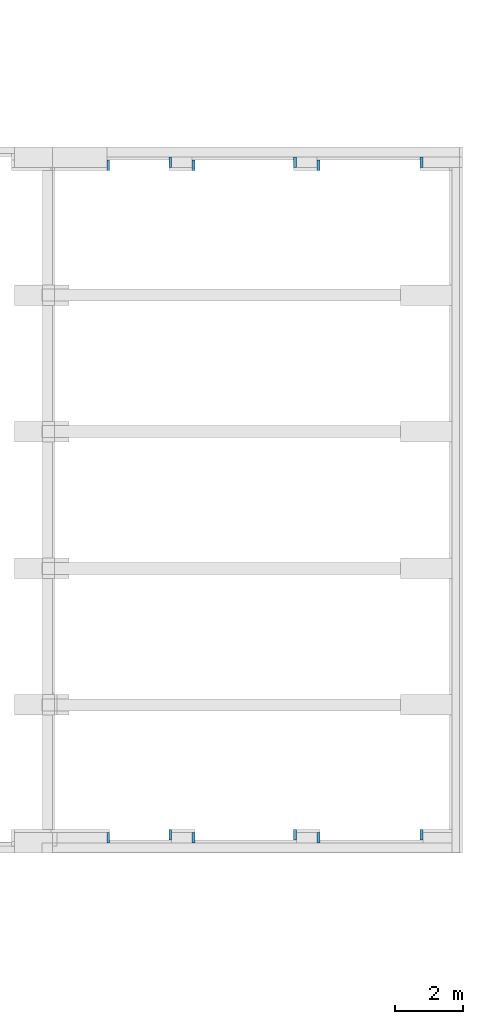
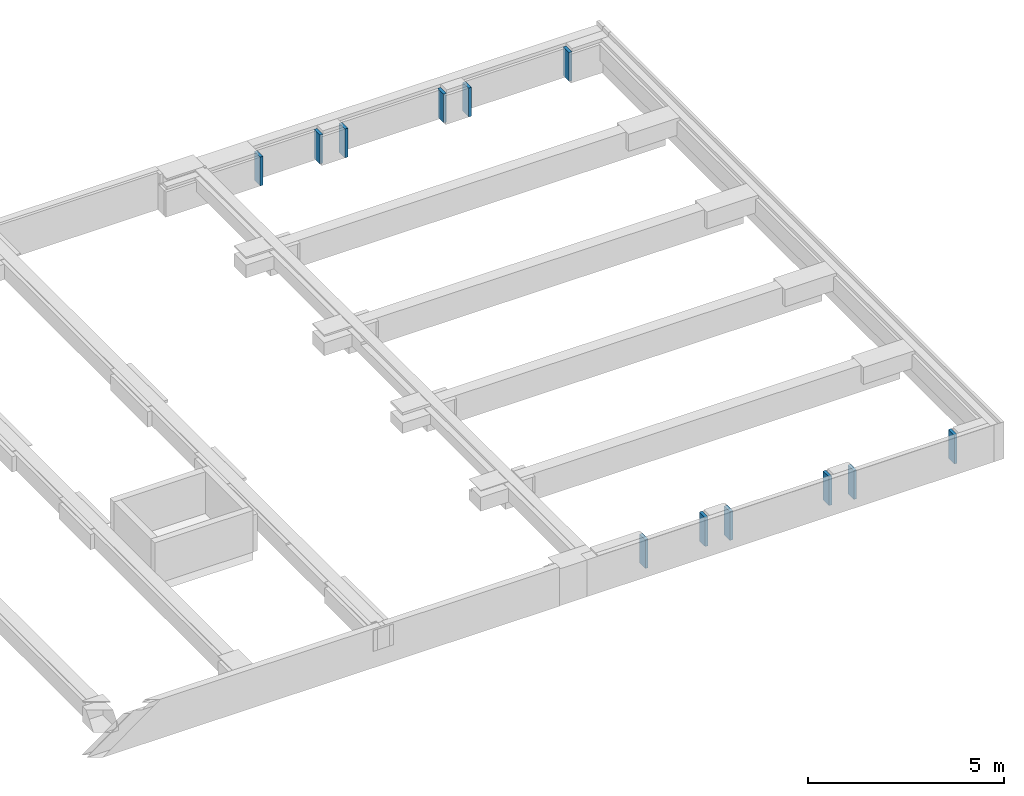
# One storey, part 16 of 17: 12 walls.
"""IFC2X3 building model written with IfcOpenShell, lengths in millimetres."""

import ifcopenshell
import ifcopenshell.guid

model = None  # the IFC model being written
_history = None  # IfcOwnerHistory: only IFC2X3 demands one
_inside = {}  # id of a spatial element -> (the spatial element, [elements in it])
_under = {}  # id of a project, library or spatial element -> (it, [spatial elements below it])
_declared = {}  # id of a project -> (the project, [libraries it declares])
_typed = {}  # id of a type object -> (the type object, [elements of that type])
_made_of = {}  # id of a material, layer set ... -> (it, [elements and type objects made of it])


def new_model(schema):
    """Start an empty IFC model of exactly this schema.

    Asked for "IFC4X3", IfcOpenShell would pick the latest addendum, in which some entities
    have other attributes; the version numbers below select the first issue.
    IFC2X3 requires an IfcOwnerHistory on every rooted entity: one is made here for all.
    """
    global model, _history
    if schema == "IFC4X3":
        model = ifcopenshell.file(schema_version=(4, 3, 0, 0))
    else:
        model = ifcopenshell.file(schema=schema)
    _inside.clear()
    _under.clear()
    _declared.clear()
    _typed.clear()
    _made_of.clear()
    _history = None
    if model.schema == "IFC2X3":
        org = make("IfcOrganization", Name="unknown")
        user = make(
            "IfcPersonAndOrganization",
            ThePerson=make("IfcPerson", FamilyName="unknown"),
            TheOrganization=org,
        )
        app = make(
            "IfcApplication",
            ApplicationDeveloper=org,
            Version="unknown",
            ApplicationFullName="unknown",
            ApplicationIdentifier="unknown",
        )
        _history = make(
            "IfcOwnerHistory",
            OwningUser=user,
            OwningApplication=app,
            ChangeAction="ADDED",
            CreationDate=0,
        )
    return model


def make(cls, **values):
    """One entity of the class cls with the attributes given. An attribute that is None is left unset."""
    return model.create_entity(
        cls, **{name: value for name, value in values.items() if value is not None}
    )


def entity(cls, *values):
    """Any entity or typed value of the class cls, its attributes in the order of the schema. None: left unset."""
    e = model.create_entity(cls)
    for i, value in enumerate(values):
        if value is not None:
            e[i] = value
    return e


def rooted(cls, **values):
    """An entity with a GlobalId (a new one), such as an element, a storey or a relation."""
    return make(cls, GlobalId=ifcopenshell.guid.new(), OwnerHistory=_history, **values)


def si_unit(unit_type, name, prefix=None):
    """IfcSIUnit, for example si_unit("LENGTHUNIT", "METRE", prefix="MILLI")."""
    return make("IfcSIUnit", UnitType=unit_type, Prefix=prefix, Name=name)


def converted_unit(unit_type, name, factor, base, dimensions=None, offset=None):
    """IfcConversionBasedUnit, such as the inch: factor (a typed value) times the base unit."""
    return make(
        "IfcConversionBasedUnit"
        if offset is None
        else "IfcConversionBasedUnitWithOffset",
        ConversionOffset=offset,
        Dimensions=None
        if dimensions is None
        else entity("IfcDimensionalExponents", *dimensions),
        UnitType=unit_type,
        Name=name,
        ConversionFactor=make(
            "IfcMeasureWithUnit", ValueComponent=factor, UnitComponent=base
        ),
    )


def derived_unit(unit_type, elements):
    """IfcDerivedUnit: a product of units, each with its exponent."""
    return make(
        "IfcDerivedUnit",
        Elements=[
            make("IfcDerivedUnitElement", Unit=unit, Exponent=power)
            for unit, power in elements
        ],
        UnitType=unit_type,
    )


def money_unit(currency):
    """IfcMonetaryUnit."""
    return make("IfcMonetaryUnit", Currency=currency)


def assignment(units):
    """IfcUnitAssignment: the units of a project."""
    return None if units is None else make("IfcUnitAssignment", Units=units)


def point(xyz):
    """IfcCartesianPoint."""
    return None if xyz is None else make("IfcCartesianPoint", Coordinates=xyz)


def direction(xyz):
    """IfcDirection."""
    return None if xyz is None else make("IfcDirection", DirectionRatios=xyz)


def frame(location, z_axis=None, x_axis=None):
    """IfcAxis2Placement3D, a coordinate frame: its origin and axes. An axis left out is left unset."""
    return make(
        "IfcAxis2Placement3D",
        Location=point(location),
        Axis=direction(z_axis),
        RefDirection=direction(x_axis),
    )


def origin_with_axes():
    """The frame at (0, 0, 0) with the z axis (0, 0, 1) and the x axis (1, 0, 0) written out."""
    return frame((0.0, 0.0, 0.0), z_axis=(0.0, 0.0, 1.0), x_axis=(1.0, 0.0, 0.0))


def place(relative_to, where):
    """IfcLocalPlacement: puts the frame where relative to a parent placement (None: the world)."""
    return make(
        "IfcLocalPlacement", PlacementRelTo=relative_to, RelativePlacement=where
    )


def context(
    kind, dimensions, precision=None, world=None, true_north=None, identifier=None
):
    """IfcGeometricRepresentationContext, for example the 3D "Model" context."""
    return make(
        "IfcGeometricRepresentationContext",
        ContextIdentifier=identifier,
        ContextType=kind,
        CoordinateSpaceDimension=dimensions,
        Precision=precision,
        WorldCoordinateSystem=world,
        TrueNorth=true_north,
    )


def subcontext(parent, identifier, kind, view, scale=None):
    """IfcGeometricRepresentationSubContext, for example "Body" below "Model"."""
    return make(
        "IfcGeometricRepresentationSubContext",
        ContextIdentifier=identifier,
        ContextType=kind,
        ParentContext=parent,
        TargetScale=scale,
        TargetView=view,
    )


def project(units=None, contexts=None):
    """IfcProject with its units and contexts."""
    return rooted(
        "IfcProject",
        Name="project",
        RepresentationContexts=contexts,
        UnitsInContext=assignment(units),
    )


def spatial(cls, under=None, at=None, **own):
    """A site, building, storey or space (cls), placed at a placement, below another one or the project."""
    s = rooted(cls, ObjectPlacement=at, **own)
    if under is not None:
        _under.setdefault(under.id(), (under, []))[1].append(s)
    return s


def faces_of(points, faces, orient=None, outer=None):
    """IfcFace entities. A face is a list of loops; a loop is a list of indices into points, from 0.

    orient and outer hold one flag for each loop. By default every Orientation is true, the
    first loop of a face is its IfcFaceOuterBound and the others are IfcFaceBound.
    """
    made = []
    for i, loops in enumerate(faces):
        bounds = []
        for j, loop in enumerate(loops):
            is_outer = j == 0 if outer is None else outer[i][j]
            bounds.append(
                make(
                    "IfcFaceOuterBound" if is_outer else "IfcFaceBound",
                    Bound=make("IfcPolyLoop", Polygon=[points[k] for k in loop]),
                    Orientation=True if orient is None else orient[i][j],
                )
            )
        made.append(make("IfcFace", Bounds=bounds))
    return made


def faceted_brep(points, faces, orient=None, outer=None, voids=None):
    """IfcFacetedBrep: a solid bounded by flat faces; with voids (closed shells), ...WithVoids."""
    shared = [point(p) for p in points]
    hull = make("IfcClosedShell", CfsFaces=faces_of(shared, faces, orient, outer))
    if voids is None:
        return make("IfcFacetedBrep", Outer=hull)
    return make(
        "IfcFacetedBrepWithVoids",
        Outer=hull,
        Voids=[
            make(cls, CfsFaces=faces_of(shared, fs, o, b)) for cls, fs, o, b in voids
        ],
    )


def shape(context_of_items, identifier, shape_type, items):
    """IfcShapeRepresentation: the items that make up one representation, for example the "Body"."""
    return make(
        "IfcShapeRepresentation",
        ContextOfItems=context_of_items,
        RepresentationIdentifier=identifier,
        RepresentationType=shape_type,
        Items=items,
    )


def material(Name=None, Category=None):
    """IfcMaterial."""
    return make("IfcMaterial", Name=Name, Category=Category)


def made_of(thing, what):
    """Note that an element or type object is made of a material, layer set ...; save() writes the relation."""
    if what is not None:
        _made_of.setdefault(what.id(), (what, []))[1].append(thing)
    return thing


def type_object(cls, material=None, **own):
    """A type object (cls), such as IfcWallType, which elements share."""
    return made_of(rooted(cls, **own), material)


def element(
    cls,
    number,
    at=None,
    inside=None,
    cuts=None,
    type_object=None,
    material=None,
    context=None,
    identifier="Body",
    shape_type=None,
    held_by="IfcProductDefinitionShape",
    body=None,
    shapes=None,
    **own,
):
    """One element of the class cls, such as IfcWall. Its Tag is "e" and its number.

    at: its placement. inside: the storey or other place that contains it. cuts: it is an
    opening in that element (IfcRelVoidsElement). A single representation is given by context,
    identifier, shape_type and body (its items); several are given by shapes. held_by: the class
    of the entity that holds the representations. save() writes the other relations.
    """
    e = rooted(cls, Tag="e%d" % number, ObjectPlacement=at, **own)
    if body is not None:
        shapes = [shape(context, identifier, shape_type, body)]
    if shapes is not None:
        e.Representation = make(held_by, Representations=shapes)
    if inside is not None:
        _inside.setdefault(inside.id(), (inside, []))[1].append(e)
    if cuts is not None:
        rooted(
            "IfcRelVoidsElement", RelatingBuildingElement=cuts, RelatedOpeningElement=e
        )
    if type_object is not None:
        _typed.setdefault(type_object.id(), (type_object, []))[1].append(e)
    return made_of(e, material)


def aggregate(whole, parts):
    """IfcRelAggregates: a whole, such as a stair, and the parts it consists of."""
    return rooted("IfcRelAggregates", RelatingObject=whole, RelatedObjects=parts)


def save(model, path):
    """Write the relations noted so far, then the file.

    IfcRelAggregates (storeys below a building ...), IfcRelContainedInSpatialStructure (elements
    in a storey), IfcRelDefinesByType, IfcRelAssociatesMaterial and IfcRelDeclares: one each for
    every whole, place, type object, material and project.
    """
    for whole, parts in _under.values():
        aggregate(whole, parts)
    for where, things in _inside.values():
        rooted(
            "IfcRelContainedInSpatialStructure",
            RelatedElements=things,
            RelatingStructure=where,
        )
    for kind, things in _typed.values():
        rooted("IfcRelDefinesByType", RelatedObjects=things, RelatingType=kind)
    for what, things in _made_of.values():
        rooted("IfcRelAssociatesMaterial", RelatedObjects=things, RelatingMaterial=what)
    for by, libraries in _declared.values():
        rooted("IfcRelDeclares", RelatingContext=by, RelatedDefinitions=libraries)
    model.write(path)


model = new_model("IFC2X3")

# Units and contexts
model_context = context("Model", 3, precision=0.01, world=origin_with_axes(), true_north=direction((0.0, 1.0)))
body_context = subcontext(model_context, "Body", "Model", "MODEL_VIEW")
ifc_project = project(units=[si_unit("LENGTHUNIT", "METRE", prefix="MILLI"), si_unit("AREAUNIT", "SQUARE_METRE"), si_unit("VOLUMEUNIT", "CUBIC_METRE"), converted_unit("PLANEANGLEUNIT", "DEGREE", entity("IfcPlaneAngleMeasure", 0.0174532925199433), si_unit("PLANEANGLEUNIT", "RADIAN"), dimensions=[0, 0, 0, 0, 0, 0, 0]), money_unit("EUR"), converted_unit("TIMEUNIT", "Year", entity("IfcTimeMeasure", 31557600.0), si_unit("TIMEUNIT", "SECOND"), dimensions=[0, 0, 1, 0, 0, 0, 0]), si_unit("MASSUNIT", "GRAM", prefix="KILO"), si_unit("THERMODYNAMICTEMPERATUREUNIT", "DEGREE_CELSIUS"), si_unit("LUMINOUSINTENSITYUNIT", "LUMEN"), si_unit("ENERGYUNIT", "JOULE", prefix="MEGA"), derived_unit("THERMALCONDUCTANCEUNIT", [(si_unit("POWERUNIT", "WATT"), 1), (si_unit("LENGTHUNIT", "METRE"), -1), (si_unit("THERMODYNAMICTEMPERATUREUNIT", "KELVIN"), -1)]), derived_unit("SPECIFICHEATCAPACITYUNIT", [(si_unit("ENERGYUNIT", "JOULE"), 1), (si_unit("MASSUNIT", "GRAM", prefix="KILO"), -1), (si_unit("THERMODYNAMICTEMPERATUREUNIT", "KELVIN"), -1)]), derived_unit("MASSDENSITYUNIT", [(si_unit("MASSUNIT", "GRAM", prefix="KILO"), 1), (si_unit("VOLUMEUNIT", "CUBIC_METRE"), -1)])], contexts=[model_context])

# Site, building, storey
site_placement = place(None, origin_with_axes())
site = spatial("IfcSite", under=ifc_project, at=site_placement, Name="<site naam>", CompositionType="ELEMENT")
building_placement = place(site_placement, origin_with_axes())
building = spatial("IfcBuilding", under=site, at=building_placement, Name="<Naam gebouw>", CompositionType="ELEMENT")
storey_placement = place(building_placement, frame((0.0, 0.0, -1100.0), z_axis=(0.0, 0.0, 1.0), x_axis=(1.0, 0.0, 0.0)))
storey = spatial("IfcBuildingStorey", under=building, at=storey_placement, Name="-1 Fundering", CompositionType="ELEMENT", Elevation=-1100.0)

# Walls
ifc_material = material(Name="ALG - ISOLATIE")
wall_type = type_object("IfcWallType", Name="ALG - ISOLATIE 85", PredefinedType="NOTDEFINED")
wall_1_placement = place(storey_placement, frame((59900.00000000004, 265.0000000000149, -50.00000000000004), z_axis=(0.0, 0.0, 1.0), x_axis=(0.0, -1.0, 0.0)))
element("IfcWall", 1, at=wall_1_placement, inside=storey, type_object=wall_type, material=ifc_material, Name="21_Binnenwand_ALG", context=body_context, shape_type="Brep", body=[
    faceted_brep([(0.0, 85.00000000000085, 0.0), (0.0, 0.0, 0.0), (0.0, 0.0, 900.0000000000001), (0.0, 85.00000000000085, 900.0000000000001), (300.0000000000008, 85.00000000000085, 0.0), (300.0000000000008, 0.0, 0.0), (300.0000000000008, 0.0, 900.0000000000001), (300.0000000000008, 85.00000000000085, 900.0000000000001)], [[[0, 1, 2, 3]], [[1, 0, 4, 5]], [[1, 5, 6, 2]], [[2, 6, 7, 3]], [[4, 0, 3, 7]], [[5, 4, 7, 6]]]),
])
wall_2_placement = place(storey_placement, frame((61799.9999767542, -34.99999999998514, -50.00000000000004), z_axis=(0.0, 0.0, 1.0), x_axis=(7.748613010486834e-08, 0.999999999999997, 0.0)))
element("IfcWall", 2, at=wall_2_placement, inside=storey, type_object=wall_type, material=ifc_material, Name="21_Binnenwand_ALG", context=body_context, shape_type="Brep", body=[
    faceted_brep([(384.9999999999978, 2.983215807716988e-05, 0.0), (384.9999934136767, 85.00002983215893, 0.0), (384.9999934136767, 85.00002983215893, 900.0000000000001), (384.9999999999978, 2.983215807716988e-05, 900.0000000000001), (84.9999999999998, 6.586319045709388e-06, 0.0), (84.99999341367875, 85.0000065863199, 0.0), (84.99999341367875, 85.0000065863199, 900.0000000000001), (84.9999999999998, 6.586319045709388e-06, 900.0000000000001)], [[[0, 1, 2, 3]], [[4, 5, 1, 0]], [[1, 5, 6, 2]], [[2, 6, 7, 3]], [[4, 0, 3, 7]], [[5, 4, 7, 6]]]),
])
wall_3_placement = place(storey_placement, frame((62400.00000000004, 265.0000000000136, -50.00000000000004), z_axis=(0.0, 0.0, 1.0), x_axis=(2.518298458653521e-07, -0.9999999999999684, 0.0)))
element("IfcWall", 3, at=wall_3_placement, inside=storey, type_object=wall_type, material=ifc_material, Name="21_Binnenwand_ALG", context=body_context, shape_type="Brep", body=[
    faceted_brep([(2.140553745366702e-05, 85.00000000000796, 0.0), (0.0, 0.0, 0.0), (0.0, 0.0, 900.0000000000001), (2.140553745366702e-05, 85.00000000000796, 900.0000000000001), (300.000022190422, 85.00000000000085, 0.0), (300.000000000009, 0.0, 0.0), (300.000000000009, 0.0, 900.0000000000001), (300.0000214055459, 85.00000000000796, 900.0000000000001)], [[[0, 1, 2, 3]], [[1, 0, 4, 5]], [[1, 5, 6, 2]], [[2, 6, 7, 3]], [[4, 0, 3, 7]], [[5, 4, 7, 6]]]),
])
wall_4_placement = place(storey_placement, frame((65450.00000000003, -35.00002816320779, -50.00000000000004), z_axis=(0.0, 0.0, 1.0), x_axis=(0.0, 1.0, 0.0)))
element("IfcWall", 4, at=wall_4_placement, inside=storey, type_object=wall_type, material=ifc_material, Name="21_Binnenwand_ALG", context=body_context, shape_type="Brep", body=[
    faceted_brep([(385.0000281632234, 0.0, 0.0), (385.0000281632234, 84.99999999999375, 0.0), (385.0000281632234, 84.99999999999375, 900.0000000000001), (385.0000281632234, 0.0, 900.0000000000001), (84.99999999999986, 0.0, 0.0), (85.00000078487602, 84.99999999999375, 0.0), (85.00000078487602, 84.99999999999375, 900.0000000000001), (84.99999999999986, 0.0, 900.0000000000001)], [[[0, 1, 2, 3]], [[4, 5, 1, 0]], [[1, 5, 6, 2]], [[2, 6, 7, 3]], [[4, 0, 3, 7]], [[5, 4, 7, 6]]]),
])
wall_5_placement = place(storey_placement, frame((66050.00000000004, 265.0000000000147, -50.00000000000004), z_axis=(0.0, 0.0, 1.0), x_axis=(0.0, -1.0, 0.0)))
element("IfcWall", 5, at=wall_5_placement, inside=storey, type_object=wall_type, material=ifc_material, Name="21_Binnenwand_ALG", context=body_context, shape_type="Brep", body=[
    faceted_brep([(0.0, 84.99999999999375, 0.0), (0.0, 0.0, 0.0), (0.0, 0.0, 900.0000000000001), (0.0, 84.99999999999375, 900.0000000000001), (300.0000273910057, 84.99999999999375, 0.0), (300.0000281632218, 0.0, 0.0), (300.0000000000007, 0.0, 900.0000000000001), (300.0000000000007, 84.99999999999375, 900.0000000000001)], [[[0, 1, 2, 3]], [[1, 0, 4, 5]], [[1, 5, 6, 2]], [[2, 6, 7, 3]], [[4, 0, 3, 7]], [[5, 4, 7, 6]]]),
])
wall_6_placement = place(storey_placement, frame((69149.99996773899, -34.99999999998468, -50.00000000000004), z_axis=(0.0, 0.0, 1.0), x_axis=(1.075368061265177e-07, 0.9999999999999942, 0.0)))
element("IfcWall", 6, at=wall_6_placement, inside=storey, type_object=wall_type, material=ifc_material, Name="21_Binnenwand_ALG", context=body_context, shape_type="Brep", body=[
    faceted_brep([(385.0000000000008, 0.0, 0.0), (384.9999908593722, 85.00000000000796, 0.0), (384.9999908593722, 85.00000000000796, 900.0000000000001), (385.0000000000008, 0.0, 900.0000000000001), (85.0000000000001, 0.0, 0.0), (84.9999900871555, 84.99999999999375, 0.0), (84.9999900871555, 84.99999999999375, 900.0000000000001), (85.0000000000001, 0.0, 900.0000000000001)], [[[0, 1, 2, 3]], [[4, 5, 1, 0]], [[1, 5, 6, 2]], [[2, 6, 7, 3]], [[4, 0, 3, 7]], [[5, 4, 7, 6]]]),
])
wall_7_placement = place(storey_placement, frame((69150.00000000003, 19735.00000000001, -50.00000000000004), z_axis=(0.0, 0.0, 1.0), x_axis=(-5.066406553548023e-08, 0.9999999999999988, 0.0)))
element("IfcWall", 7, at=wall_7_placement, inside=storey, type_object=wall_type, material=ifc_material, Name="21_Binnenwand_ALG", context=body_context, shape_type="Brep", body=[
    faceted_brep([(300.0000000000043, -1.51992196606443e-05, 0.0), (300.000004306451, 84.99998480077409, 0.0), (300.0000043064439, 84.99998480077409, 900.0000000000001), (299.9999999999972, -1.51992196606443e-05, 900.0000000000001), (0.0, 0.0, 0.0), (4.306446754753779e-06, 84.99999999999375, 0.0), (4.306446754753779e-06, 84.99999999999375, 900.0000000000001), (0.0, 0.0, 900.0000000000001)], [[[0, 1, 2, 3]], [[4, 5, 1, 0]], [[1, 5, 6, 2]], [[2, 6, 7, 3]], [[4, 0, 3, 7]], [[5, 4, 7, 6]]]),
])
wall_8_placement = place(storey_placement, frame((66050.00012069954, 20035.00000000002, -50.00000000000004), z_axis=(0.0, 0.0, 1.0), x_axis=(-4.023316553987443e-07, -0.9999999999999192, 0.0)))
element("IfcWall", 8, at=wall_8_placement, inside=storey, type_object=wall_type, material=ifc_material, Name="21_Binnenwand_ALG", context=body_context, shape_type="Brep", body=[
    faceted_brep([(84.99996580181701, 85.00000000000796, 0.0), (85.00000000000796, 0.0, 0.0), (85.00000000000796, 0.0, 900.0000000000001), (84.99996580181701, 85.00000000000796, 900.0000000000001), (384.9999658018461, 85.00000000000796, 0.0), (385.0000000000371, 0.0, 0.0), (385.0000000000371, 0.0, 900.0000000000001), (384.9999658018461, 85.00000000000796, 900.0000000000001)], [[[0, 1, 2, 3]], [[1, 0, 4, 5]], [[1, 5, 6, 2]], [[2, 6, 7, 3]], [[4, 0, 3, 7]], [[5, 4, 7, 6]]]),
])
wall_9_placement = place(storey_placement, frame((65450.00000000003, 19735.00000000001, -50.00000000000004), z_axis=(0.0, 0.0, 1.0), x_axis=(5.900865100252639e-07, 0.9999999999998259, 0.0)))
element("IfcWall", 9, at=wall_9_placement, inside=storey, type_object=wall_type, material=ifc_material, Name="21_Binnenwand_ALG", context=body_context, shape_type="Brep", body=[
    faceted_brep([(300.0000000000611, 0.0, 0.0), (299.9999490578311, 85.00000000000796, 0.0), (299.9999498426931, 85.00000000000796, 900.0000000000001), (300.0000000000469, 0.0, 900.0000000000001), (0.0, 0.0, 0.0), (-5.015735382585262e-05, 84.99999999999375, 0.0), (-5.015735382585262e-05, 84.99999999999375, 900.0000000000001), (0.0, 0.0, 900.0000000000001)], [[[0, 1, 2, 3]], [[4, 5, 1, 0]], [[1, 5, 6, 2]], [[2, 6, 7, 3]], [[4, 0, 3, 7]], [[5, 4, 7, 6]]]),
])
wall_10_placement = place(storey_placement, frame((62400.00000000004, 20034.99997183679, -50.00000000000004), z_axis=(0.0, 0.0, 1.0), x_axis=(0.0, -1.0, 0.0)))
element("IfcWall", 10, at=wall_10_placement, inside=storey, type_object=wall_type, material=ifc_material, Name="21_Binnenwand_ALG", context=body_context, shape_type="Brep", body=[
    faceted_brep([(84.99999921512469, 85.00000000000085, 0.0), (85.00000000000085, 0.0, 0.0), (85.00000000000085, 0.0, 900.0000000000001), (84.99999921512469, 85.00000000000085, 900.0000000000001), (384.9999718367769, 85.00000000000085, 0.0), (384.9999718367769, 0.0, 0.0), (384.9999718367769, 0.0, 900.0000000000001), (384.9999718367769, 85.00000000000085, 900.0000000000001)], [[[0, 1, 2, 3]], [[1, 0, 4, 5]], [[1, 5, 6, 2]], [[2, 6, 7, 3]], [[4, 0, 3, 7]], [[5, 4, 7, 6]]]),
])
wall_11_placement = place(storey_placement, frame((61800.00000000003, 19735.00000000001, -50.00000000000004), z_axis=(0.0, 0.0, 1.0), x_axis=(0.0, 1.0, 0.0)))
element("IfcWall", 11, at=wall_11_placement, inside=storey, type_object=wall_type, material=ifc_material, Name="21_Binnenwand_ALG", context=body_context, shape_type="Brep", body=[
    faceted_brep([(299.9999718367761, 0.0, 0.0), (299.9999730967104, 85.00000000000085, 0.0), (299.9999999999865, 85.00000000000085, 900.0000000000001), (299.9999999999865, 0.0, 900.0000000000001), (0.0, 0.0, 0.0), (0.0, 85.00000000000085, 0.0), (0.0, 85.00000000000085, 900.0000000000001), (0.0, 0.0, 900.0000000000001)], [[[0, 1, 2, 3]], [[4, 5, 1, 0]], [[1, 5, 6, 2]], [[2, 6, 7, 3]], [[4, 0, 3, 7]], [[5, 4, 7, 6]]]),
])
wall_12_placement = place(storey_placement, frame((59900.00000000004, 20035.00000000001, -50.00000000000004), z_axis=(0.0, 0.0, 1.0), x_axis=(0.0, -1.0, 0.0)))
element("IfcWall", 12, at=wall_12_placement, inside=storey, type_object=wall_type, material=ifc_material, Name="21_Binnenwand_ALG", context=body_context, shape_type="Brep", body=[
    faceted_brep([(85.00000125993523, 85.00000000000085, 0.0), (85.00000000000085, 0.0, 0.0), (85.00000000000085, 0.0, 900.0000000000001), (85.00000125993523, 85.00000000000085, 900.0000000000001), (385.0000000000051, 85.00000000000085, 0.0), (385.0000000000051, 0.0, 0.0), (385.0000000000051, 0.0, 900.0000000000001), (385.0000000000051, 85.00000000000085, 900.0000000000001)], [[[0, 1, 2, 3]], [[1, 0, 4, 5]], [[1, 5, 6, 2]], [[2, 6, 7, 3]], [[4, 0, 3, 7]], [[5, 4, 7, 6]]]),
])

save(model, "model.ifc")
